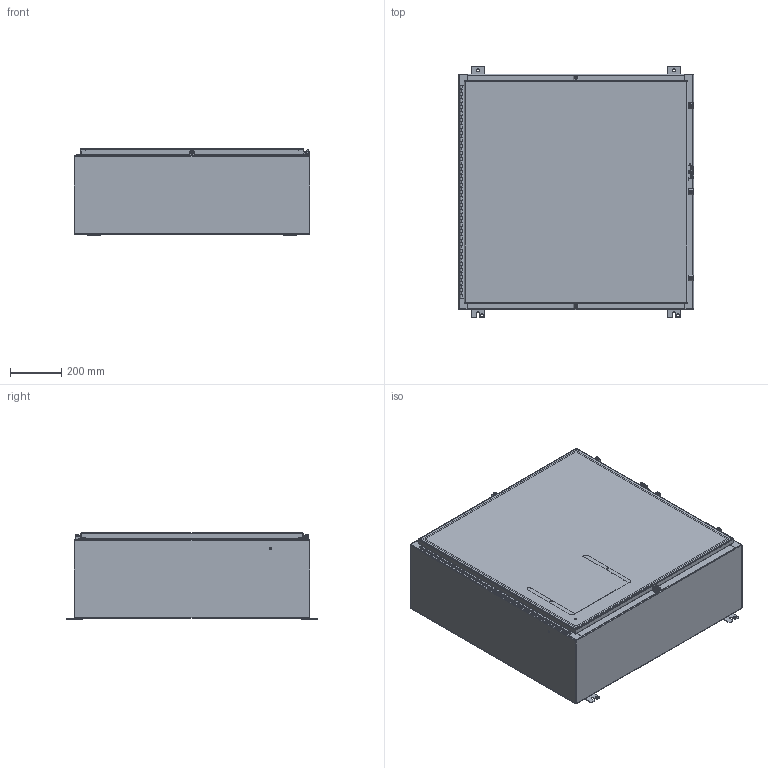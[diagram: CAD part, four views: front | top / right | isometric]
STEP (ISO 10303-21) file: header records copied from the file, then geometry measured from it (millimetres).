
FILE_DESCRIPTION((''),'2;1');
FILE_NAME('MODEL-303_ASM','2023-06-08T11:29:37',('mikek'),('SAGINAW CONTROL & ENGINEERING'),'CREO PARAMETRIC BY PTC INC, 2021284','CREO PARAMETRIC BY PTC INC, 2021284','');
FILE_SCHEMA(('AUTOMOTIVE_DESIGN { 1 0 10303 214 1 1 1 1 }'));
Length unit declared in the file: inch
Products named in the file (29): MODEL-303-BDY; MODEL-303-TP; MODEL-303-BTM; MODEL-303-DR; 100837; 100882; 111267; 118921_DR; 118921_PIN; 118921_BX; 118921_STUD; 118921_ASM; 100897; MODEL-303-DOOR-GASKET; 128600; 102483; MODEL-303-DOOR-ASSY_ASM; 102211; 101653; 121454; 120131_BASE; 120131_CLAMP; 120131_SCREW; 120131_CLOSED_ASM; 120134; SUBPANEL; 100904; SUBPANEL-SUBASSEMBLY_ASM; MODEL-303_ASM
Assembly tree (66 placements, depth 4):
  MODEL-303_ASM
    MODEL-303-BDY
    MODEL-303-TP
    MODEL-303-BTM
    MODEL-303-DOOR-ASSY_ASM
      MODEL-303-DR
      100837  x3
      100882  x2
      111267
      118921_ASM
        118921_DR
        118921_PIN
        118921_BX
        118921_STUD  x5
      100897  x5
      MODEL-303-DOOR-GASKET
      128600
      102483
    102211  x4
    100837
    101653  x8
    121454
    120131_CLOSED_ASM  x5
      120131_BASE
      120131_CLAMP
      120131_SCREW
    100882  x5
    120134
    SUBPANEL-SUBASSEMBLY_ASM
      SUBPANEL
      100904  x8
Bounding box: 914.4 x 977.9 x 335.48 mm (x, y, z)
Volume: 8688199.2 mm3; surface area: 7942659.2 mm2
Topology: 69 solids, 69 shells, 5255 faces, 13683 edges, 8632 vertices
Faces by surface type: plane 2103, bspline 1379, cylinder 1158, torus 322, sphere 163, cone 130
Entity records: 103150 total; most frequent: CARTESIAN_POINT 32149, ORIENTED_EDGE 10654, DIRECTION 9685, PRESENTATION_STYLE_ASSIGNMENT 5455, STYLED_ITEM 5455, CURVE_STYLE 5327, EDGE_CURVE 5327, VERTEX_POINT 3360
